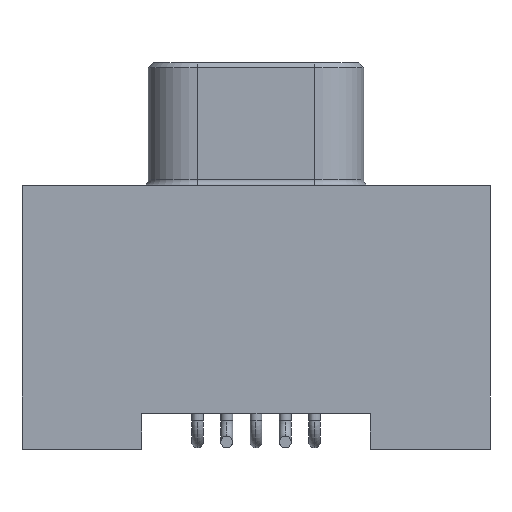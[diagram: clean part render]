
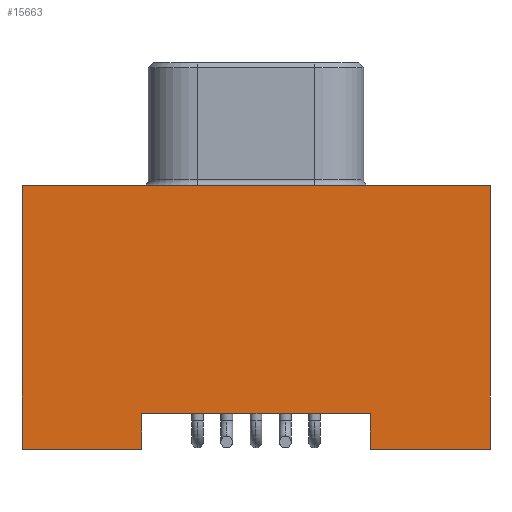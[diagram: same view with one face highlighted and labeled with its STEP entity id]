
A CAD part, front view. The second image highlights one B-rep face of the part: STEP entity #15663.
In plain terms, the highlighted planar face has unit normal (0, -1, 0).
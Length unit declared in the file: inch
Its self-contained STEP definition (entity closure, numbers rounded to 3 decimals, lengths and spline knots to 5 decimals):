
#837 = LINE ( 'NONE', #17976, #2236 ) ;
#1990 = EDGE_CURVE ( 'NONE', #4295, #13835, #22859, .T. ) ;
#2236 = VECTOR ( 'NONE', #15854, 39.37008 ) ;
#2469 = VECTOR ( 'NONE', #9021, 39.37008 ) ;
#3102 = ORIENTED_EDGE ( 'NONE', *, *, #25213, .F. ) ;
#4295 = VERTEX_POINT ( 'NONE', #16896 ) ;
#4505 = CARTESIAN_POINT ( 'NONE',  ( -0.0975, -0.0525, -0.16 ) ) ;
#4656 = AXIS2_PLACEMENT_3D ( 'NONE', #24758, #16102, #27247 ) ;
#4690 = CARTESIAN_POINT ( 'NONE',  ( -0.2, -0.0525, 0.065 ) ) ;
#4930 = CARTESIAN_POINT ( 'NONE',  ( 0.2, -0.0525, -0.16 ) ) ;
#5037 = EDGE_CURVE ( 'NONE', #7846, #4295, #11628, .T. ) ;
#5090 = CARTESIAN_POINT ( 'NONE',  ( 0.2, -0.0525, -0.16 ) ) ;
#5338 = DIRECTION ( 'NONE',  ( 1., 0., 0. ) ) ;
#6573 = EDGE_CURVE ( 'NONE', #9911, #26532, #24248, .T. ) ;
#7485 = DIRECTION ( 'NONE',  ( -1., 0., 0. ) ) ;
#7504 = CARTESIAN_POINT ( 'NONE',  ( 0.2, -0.0525, 0.065 ) ) ;
#7846 = VERTEX_POINT ( 'NONE', #13755 ) ;
#8215 = CARTESIAN_POINT ( 'NONE',  ( 0.2, -0.0525, -0.16 ) ) ;
#8396 = CARTESIAN_POINT ( 'NONE',  ( 0.2, -0.0525, 0.065 ) ) ;
#8705 = VERTEX_POINT ( 'NONE', #19036 ) ;
#9021 = DIRECTION ( 'NONE',  ( 0., 0., -1. ) ) ;
#9140 = ORIENTED_EDGE ( 'NONE', *, *, #6573, .T. ) ;
#9546 = ORIENTED_EDGE ( 'NONE', *, *, #5037, .F. ) ;
#9911 = VERTEX_POINT ( 'NONE', #4690 ) ;
#10234 = VECTOR ( 'NONE', #17192, 39.37008 ) ;
#10917 = ORIENTED_EDGE ( 'NONE', *, *, #23333, .T. ) ;
#11318 = VECTOR ( 'NONE', #7485, 39.37008 ) ;
#11447 = PLANE ( 'NONE',  #4656 ) ;
#11628 = LINE ( 'NONE', #15474, #11318 ) ;
#11710 = EDGE_CURVE ( 'NONE', #8705, #7846, #22981, .T. ) ;
#12052 = VECTOR ( 'NONE', #5338, 39.37008 ) ;
#12698 = ORIENTED_EDGE ( 'NONE', *, *, #20247, .F. ) ;
#13259 = VERTEX_POINT ( 'NONE', #8396 ) ;
#13589 = EDGE_CURVE ( 'NONE', #26532, #13835, #19883, .T. ) ;
#13755 = CARTESIAN_POINT ( 'NONE',  ( 0.0975, -0.0525, -0.13 ) ) ;
#13835 = VERTEX_POINT ( 'NONE', #4505 ) ;
#15474 = CARTESIAN_POINT ( 'NONE',  ( -0.0975, -0.0525, -0.13 ) ) ;
#15663 = ADVANCED_FACE ( 'NONE', ( #15841 ), #11447, .F. ) ;
#15841 = FACE_OUTER_BOUND ( 'NONE', #17271, .T. ) ;
#15854 = DIRECTION ( 'NONE',  ( 1., 0., 0. ) ) ;
#16102 = DIRECTION ( 'NONE',  ( 0., 1., 0. ) ) ;
#16896 = CARTESIAN_POINT ( 'NONE',  ( -0.0975, -0.0525, -0.13 ) ) ;
#16919 = CARTESIAN_POINT ( 'NONE',  ( -0.2, -0.0525, -0.16 ) ) ;
#17192 = DIRECTION ( 'NONE',  ( 0., 0., 1. ) ) ;
#17271 = EDGE_LOOP ( 'NONE', ( #18378, #27321, #9546, #24489, #10917, #3102, #12698, #9140 ) ) ;
#17976 = CARTESIAN_POINT ( 'NONE',  ( 0.2, -0.0525, 0.065 ) ) ;
#18056 = VECTOR ( 'NONE', #26658, 39.37008 ) ;
#18378 = ORIENTED_EDGE ( 'NONE', *, *, #13589, .T. ) ;
#18443 = DIRECTION ( 'NONE',  ( 0., 0., -1. ) ) ;
#19036 = CARTESIAN_POINT ( 'NONE',  ( 0.0975, -0.0525, -0.16 ) ) ;
#19883 = LINE ( 'NONE', #5090, #18056 ) ;
#20247 = EDGE_CURVE ( 'NONE', #9911, #13259, #837, .T. ) ;
#22859 = LINE ( 'NONE', #27234, #24887 ) ;
#22981 = LINE ( 'NONE', #25540, #10234 ) ;
#23333 = EDGE_CURVE ( 'NONE', #8705, #25958, #26902, .T. ) ;
#24248 = LINE ( 'NONE', #26641, #2469 ) ;
#24489 = ORIENTED_EDGE ( 'NONE', *, *, #11710, .F. ) ;
#24758 = CARTESIAN_POINT ( 'NONE',  ( 0.2, -0.0525, 0.065 ) ) ;
#24887 = VECTOR ( 'NONE', #27498, 39.37008 ) ;
#25213 = EDGE_CURVE ( 'NONE', #13259, #25958, #26783, .T. ) ;
#25215 = VECTOR ( 'NONE', #18443, 39.37008 ) ;
#25540 = CARTESIAN_POINT ( 'NONE',  ( 0.0975, -0.0525, -0.16 ) ) ;
#25958 = VERTEX_POINT ( 'NONE', #8215 ) ;
#26532 = VERTEX_POINT ( 'NONE', #16919 ) ;
#26641 = CARTESIAN_POINT ( 'NONE',  ( -0.2, -0.0525, 0.065 ) ) ;
#26658 = DIRECTION ( 'NONE',  ( 1., 0., 0. ) ) ;
#26783 = LINE ( 'NONE', #7504, #25215 ) ;
#26902 = LINE ( 'NONE', #4930, #12052 ) ;
#27234 = CARTESIAN_POINT ( 'NONE',  ( -0.0975, -0.0525, -0.16 ) ) ;
#27247 = DIRECTION ( 'NONE',  ( -1., 0., 0. ) ) ;
#27321 = ORIENTED_EDGE ( 'NONE', *, *, #1990, .F. ) ;
#27498 = DIRECTION ( 'NONE',  ( 0., 0., -1. ) ) ;
